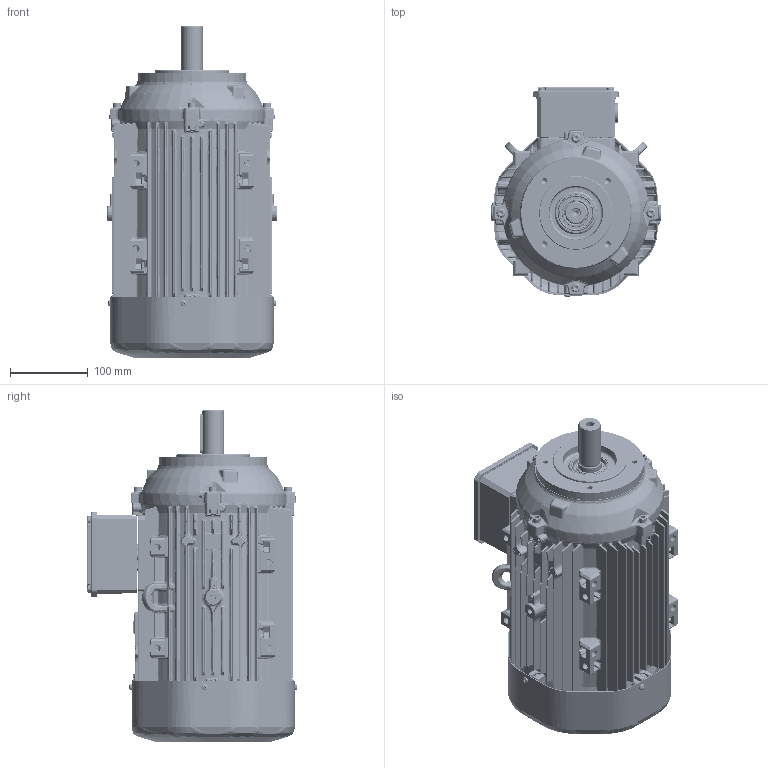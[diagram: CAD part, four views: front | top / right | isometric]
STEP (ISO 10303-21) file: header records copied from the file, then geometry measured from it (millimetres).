
FILE_DESCRIPTION(/* description */ (''),/* implementation_level */ '2;1');
FILE_NAME(/* name */ 'OUTLOOK VIEW QH112 FC B14 - REDUCED FT115 SPL.stp',/* time_stamp */ '2021-09-21T14:48:54+03:00',/* author */ (''),/* organization */ (''),/* preprocessor_version */ 'ST-DEVELOPER v16',/* originating_system */ 'SIEMENS PLM Software NX 11.0',/* authorisation */ '');
FILE_SCHEMA (('AUTOMOTIVE_DESIGN { 1 0 10303 214 3 1 1 1 }'));
Products named in the file (1): 260652D491E0rwzo
Bounding box: 219 x 270.61 x 427.6 mm (x, y, z)
Volume: 2282435 mm3; surface area: 1152897.7 mm2
Topology: 65 solids, 71 shells, 11706 faces, 27665 edges, 15688 vertices
Faces by surface type: cylinder 3715, bspline 3634, plane 2259, sphere 882, torus 608, cone 573, extrusion 35
Full cylindrical faces by diameter (mm): 2 x14, 3 x2, 3.3 x4, 3.7 x4, 3.985 x1, 4 x9, 4.22 x1, 4.6 x3, 4.722 x2, 5 x11, 6 x8, 6.4 x12, 6.8 x4, 8 x9, 8.5 x1, 10 x8, 10.5 x1, 12 x8, 23.38 x2, 24.4 x1, 25 x3, 27.4 x1, 28 x1, 28.6 x1, 29.4 x2, 30 x5, 30.2 x1, 30.5 x1, 32.94 x1, 34 x3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
Entity records: 404628 total; most frequent: CARTESIAN_POINT 160255, ORIENTED_EDGE 52864, DIRECTION 47997, EDGE_CURVE 26432, AXIS2_PLACEMENT_3D 19918, VERTEX_POINT 15498, EDGE_LOOP 12766, ADVANCED_FACE 11699
